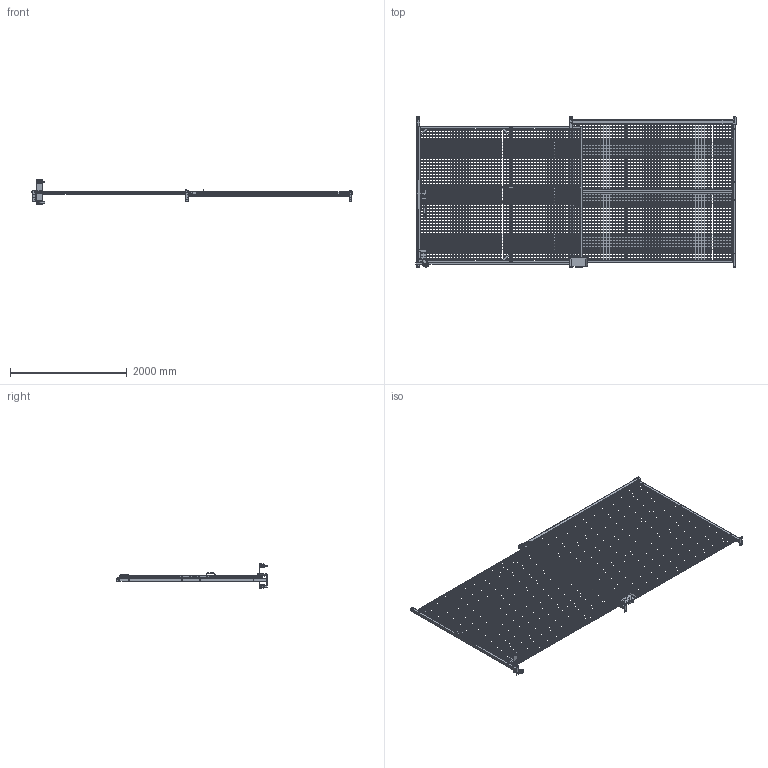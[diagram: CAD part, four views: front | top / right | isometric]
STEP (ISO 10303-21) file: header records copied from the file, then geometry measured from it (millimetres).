
FILE_DESCRIPTION (( 'STEP AP214' ), '1' );
FILE_NAME ('TD888RHO.STEP', '2021-04-01T12:44:24', ( '' ), ( '' ), 'SwSTEP 2.0', 'SolidWorks 2021', '' );
FILE_SCHEMA (( 'AUTOMOTIVE_DESIGN' ));
Length unit declared in the file: inch
Products named in the file (56): SF-1 LATCH; POST CAP; SB-1; COMMON STRU ANGLE 11418_PXSD5PC; TD888RHO; COMMON MESH_MH94; SDTT4WH_CUT BOLT; COMMON SD TRK_TDTRK9; Part13.stp; SUD12HNDLBPU; COMMON FLAT BAR_PX4F; COMMON FLAT BAR_PXSD5FH; SDTDCP; FS12412TMS; COMMON 840 POST WELD_DP8P; COMMON 840 SLIDE DOOR SUB_TD98RH; TDCASTER; COMMON STRU ANGLE 11418_PXSD8PL; Part11.stp; COMMON WIRE_10GA X 90.5; TDCASTER.stp; COMMON 840 SLIDE DOOR_SDL4; SDLKRECT; SUD12HANDLE; COMMON WIRE_10GA X 107; COMMON 840 PANEL FRAME_94; SDRECA; COMMON STRU ANGLE 11418_PX9; TDZBKT; SGDG12; COMMON SD COVER BAR_SDCB9; COMMON FLAT BAR_PXSDFV; COMMON BASE PLATE_BP27; COMMON STRU ANGLE 11418_PXSD8PX; COMMON 840 SLIDE DOOR_SD5-RH; COMMON 840 POST_DP8P; HDLKPLATEF; COMMON MESH_MHSD5; SDTT4WH_NO BOLT; HDLKPLATEB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
Assembly tree (410 placements, depth 5):
  TD888RHO
    COMMON 840 POST WELD_DP8P  x4
      COMMON BASE PLATE_BP27
      COMMON 840 POST_DP8P
      POST CAP
    COMMON 840 SD TRK ASSEMBLY_TDTRK9 RHO
      COMMON SD TRK_TDTRK9
      SDTCBKT  x2
    COMMON 840 SLIDE DOOR SUB_TD98RH
      COMMON 840 SLIDE DOOR_SD5-RH
        COMMON STRU ANGLE 11418_PXSD5PC  x2
        COMMON STRU ANGLE 11418_PXSD8PX
        COMMON STRU ANGLE 11418_PXSD8PL
        HDLKPLATEF
        HDLKPLATEB
        COMMON FLAT BAR_PXSD5FH  x2
        COMMON FLAT BAR_PXSDFV  x2
        SDLKCOV
        COMMON MESH_MHSD5
          COMMON WIRE_10GA X 61  x91
          COMMON WIRE_10GA X 90.5  x31
        SF-1 LATCH
          SF-1 LATCH
          SB-1
        SDCGUS  x4
      COMMON 840 SLIDE DOOR_SDL4
        COMMON STRU ANGLE 11418_PXL4PC  x2
        COMMON STRU ANGLE 11418_PXSD8PX  x2
        COMMON MESH_SDL4
          COMMON WIRE_10GA X 47  x91
          COMMON WIRE_10GA X 90.5  x24
        COMMON FLAT BAR_PX4F
    SDTT4WH_CUT BOLT
      SDTT4WH_NO BOLT
      FS12412TMS
    SGDG12
    SDREC
      SDRECB
      SDLKRECT
      SDRECA
    COMMON SD COVER BAR_SDCB9
    SDTDPBLTON
    SDTDCP  x2
    SUD12HNDLWELD
      SUD12HANDLE
      SUD12HNDLBPU
    SUD12HNDLBPU
    TDZBKT
    TDCASTER  x2
      TDCASTER.stp
        Part9.stp
        Part11.stp
        Part13.stp
    COMMON 840 PANEL FRAME_94  x2
      COMMON STRU ANGLE 11418_PX9
      COMMON STRU ANGLE 11418_PX4PC
      COMMON FLAT BAR_PX4F
      COMMON MESH_MH94
        COMMON WIRE_10GA X 107  x47
        COMMON WIRE_10GA X 47  x54
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Bounding box: 5476.86 x 2575.56 x 420.99 mm (x, y, z)
Volume: 22384404.4 mm3; surface area: 19396234.9 mm2
Topology: 517 solids, 522 shells, 4225 faces, 8761 edges, 5662 vertices
Faces by surface type: plane 2445, cylinder 1346, cone 193, bspline 193, torus 44, sphere 4
Full cylindrical faces by diameter (mm): 3.429 x439, 5.182 x4, 6.35 x8, 9.525 x86, 11.112 x12, 11.113 x8, 12.7 x89, 14.021 x1, 14.046 x1, 14.287 x18, 19.05 x1, 34.049 x1, 35.687 x1, 38.862 x1, 44.704 x1, 45.822 x1, 47.625 x4, 50.8 x4, 53.975 x4, 57.15 x6, 60.325 x2, 101.6 x2
Entity records: 84783 total; most frequent: CARTESIAN_POINT 34025, DIRECTION 9531, ORIENTED_EDGE 9138, EDGE_CURVE 4581, AXIS2_PLACEMENT_3D 3334, VERTEX_POINT 3088, VECTOR 2863, LINE 2863
